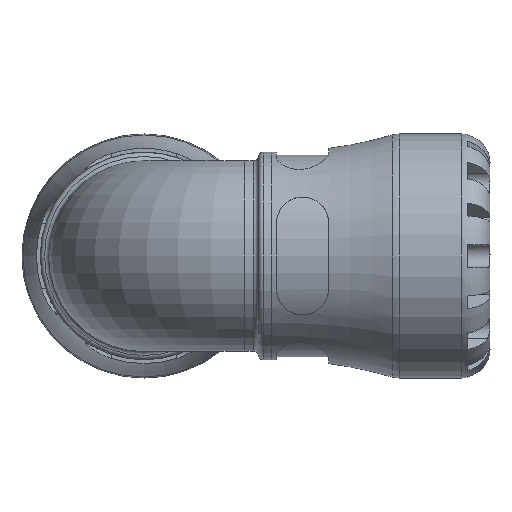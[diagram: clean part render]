
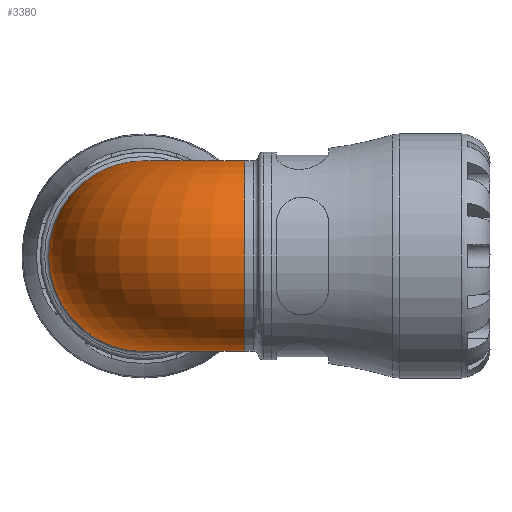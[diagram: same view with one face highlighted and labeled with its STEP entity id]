
A CAD part, front view. The second image highlights one B-rep face of the part: STEP entity #3380.
In plain terms, the highlighted toroidal (fillet/blend) face has major radius 42.453 mm and minor radius 40.17 mm.
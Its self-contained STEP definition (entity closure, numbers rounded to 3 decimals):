
#847=FACE_OUTER_BOUND('',#1043,.T.);
#1043=EDGE_LOOP('',(#2331,#2332,#2333,#2334,#2335,#2336));
#1253=CIRCLE('',#3602,40.17);
#1254=CIRCLE('',#3603,2.282);
#1255=CIRCLE('',#3604,40.17);
#1256=CIRCLE('',#3605,40.17);
#1257=CIRCLE('',#3606,40.17);
#1473=VERTEX_POINT('',#5032);
#1474=VERTEX_POINT('',#5033);
#1475=VERTEX_POINT('',#5035);
#1476=VERTEX_POINT('',#5037);
#1809=EDGE_CURVE('',#1473,#1474,#1253,.T.);
#1810=EDGE_CURVE('',#1473,#1475,#1254,.T.);
#1811=EDGE_CURVE('',#1476,#1475,#1255,.T.);
#1812=EDGE_CURVE('',#1475,#1476,#1256,.T.);
#1813=EDGE_CURVE('',#1474,#1473,#1257,.T.);
#2331=ORIENTED_EDGE('',*,*,#1809,.F.);
#2332=ORIENTED_EDGE('',*,*,#1810,.T.);
#2333=ORIENTED_EDGE('',*,*,#1811,.F.);
#2334=ORIENTED_EDGE('',*,*,#1812,.F.);
#2335=ORIENTED_EDGE('',*,*,#1810,.F.);
#2336=ORIENTED_EDGE('',*,*,#1813,.F.);
#3368=TOROIDAL_SURFACE('',#3601,42.453,40.17);
#3380=ADVANCED_FACE('',(#847),#3368,.T.);
#3601=AXIS2_PLACEMENT_3D('',#5031,#4026,#4027);
#3602=AXIS2_PLACEMENT_3D('',#5034,#4028,#4029);
#3603=AXIS2_PLACEMENT_3D('',#5036,#4030,#4031);
#3604=AXIS2_PLACEMENT_3D('',#5038,#4032,#4033);
#3605=AXIS2_PLACEMENT_3D('',#5039,#4034,#4035);
#3606=AXIS2_PLACEMENT_3D('',#5040,#4036,#4037);
#4026=DIRECTION('center_axis',(0.,0.,1.));
#4027=DIRECTION('ref_axis',(1.,0.,0.));
#4028=DIRECTION('center_axis',(1.,0.,0.));
#4029=DIRECTION('ref_axis',(0.,0.,-1.));
#4030=DIRECTION('center_axis',(0.,0.,-1.));
#4031=DIRECTION('ref_axis',(1.,0.,0.));
#4032=DIRECTION('center_axis',(0.,1.,0.));
#4033=DIRECTION('ref_axis',(0.,0.,-1.));
#4034=DIRECTION('center_axis',(0.,1.,0.));
#4035=DIRECTION('ref_axis',(0.,0.,-1.));
#4036=DIRECTION('center_axis',(1.,0.,0.));
#4037=DIRECTION('ref_axis',(0.,0.,-1.));
#5031=CARTESIAN_POINT('Origin',(42.453,42.453,0.));
#5032=CARTESIAN_POINT('',(42.453,40.17,0.));
#5033=CARTESIAN_POINT('',(42.453,-40.17,0.));
#5034=CARTESIAN_POINT('Origin',(42.453,0.,0.));
#5035=CARTESIAN_POINT('',(40.17,42.453,0.));
#5036=CARTESIAN_POINT('Origin',(42.453,42.453,0.));
#5037=CARTESIAN_POINT('',(0.,42.453,-40.17));
#5038=CARTESIAN_POINT('Origin',(0.,42.453,0.));
#5039=CARTESIAN_POINT('Origin',(0.,42.453,0.));
#5040=CARTESIAN_POINT('Origin',(42.453,0.,0.));
